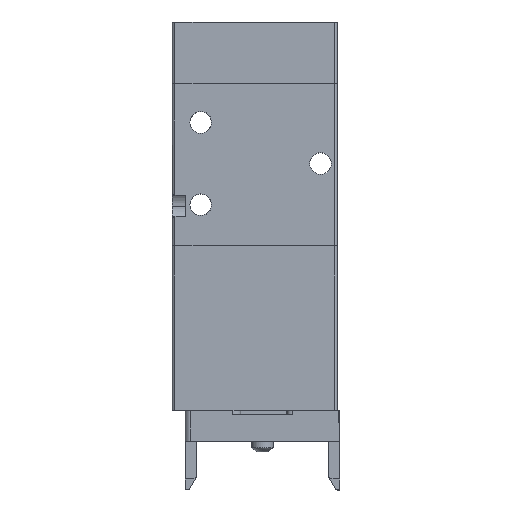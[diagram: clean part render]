
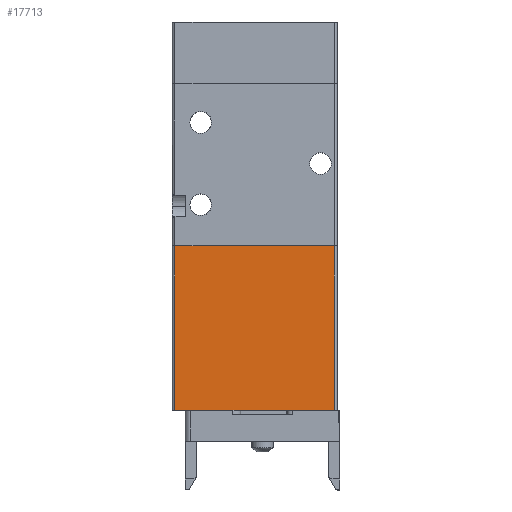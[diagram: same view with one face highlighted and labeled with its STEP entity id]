
A CAD part, top view. The second image highlights one B-rep face of the part: STEP entity #17713.
In plain terms, the highlighted planar face has unit normal (0, 0, 1).
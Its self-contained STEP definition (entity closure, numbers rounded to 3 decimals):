
#966 = DIRECTION ( 'NONE',  ( 0., 1., 0. ) ) ;
#1497 = EDGE_LOOP ( 'NONE', ( #22768, #18174, #15056, #24151 ) ) ;
#4126 = FACE_OUTER_BOUND ( 'NONE', #1497, .T. ) ;
#4406 = VERTEX_POINT ( 'NONE', #6451 ) ;
#4917 = EDGE_CURVE ( 'NONE', #11244, #4406, #31120, .T. ) ;
#5224 = VERTEX_POINT ( 'NONE', #22432 ) ;
#6254 = VERTEX_POINT ( 'NONE', #19863 ) ;
#6451 = CARTESIAN_POINT ( 'NONE',  ( -14.5, -6.64, 11. ) ) ;
#6458 = CARTESIAN_POINT ( 'NONE',  ( -14.5, -38.64, 11. ) ) ;
#8595 = DIRECTION ( 'NONE',  ( -1., 0., 0. ) ) ;
#8697 = CARTESIAN_POINT ( 'NONE',  ( -15., -6.64, 11. ) ) ;
#10854 = DIRECTION ( 'NONE',  ( 0., 1., 0. ) ) ;
#11244 = VERTEX_POINT ( 'NONE', #17050 ) ;
#12212 = LINE ( 'NONE', #25816, #24715 ) ;
#12359 = LINE ( 'NONE', #6458, #24858 ) ;
#15056 = ORIENTED_EDGE ( 'NONE', *, *, #25418, .F. ) ;
#15812 = PLANE ( 'NONE',  #24125 ) ;
#15919 = CARTESIAN_POINT ( 'NONE',  ( -15., -38.64, 11. ) ) ;
#15922 = DIRECTION ( 'NONE',  ( 0., 0., -1. ) ) ;
#17050 = CARTESIAN_POINT ( 'NONE',  ( 16.5, -6.64, 11. ) ) ;
#17291 = EDGE_CURVE ( 'NONE', #4406, #6254, #12359, .T. ) ;
#17713 = ADVANCED_FACE ( 'NONE', ( #4126 ), #15812, .F. ) ;
#18174 = ORIENTED_EDGE ( 'NONE', *, *, #17291, .T. ) ;
#18587 = VECTOR ( 'NONE', #8595, 1000. ) ;
#19863 = CARTESIAN_POINT ( 'NONE',  ( -14.5, -38.64, 11. ) ) ;
#22432 = CARTESIAN_POINT ( 'NONE',  ( 16.5, -38.64, 11. ) ) ;
#22768 = ORIENTED_EDGE ( 'NONE', *, *, #4917, .T. ) ;
#23186 = LINE ( 'NONE', #15919, #29826 ) ;
#24125 = AXIS2_PLACEMENT_3D ( 'NONE', #30894, #15922, #966 ) ;
#24151 = ORIENTED_EDGE ( 'NONE', *, *, #25771, .T. ) ;
#24715 = VECTOR ( 'NONE', #10854, 1000. ) ;
#24858 = VECTOR ( 'NONE', #26419, 1000. ) ;
#25418 = EDGE_CURVE ( 'NONE', #5224, #6254, #23186, .T. ) ;
#25771 = EDGE_CURVE ( 'NONE', #5224, #11244, #12212, .T. ) ;
#25816 = CARTESIAN_POINT ( 'NONE',  ( 16.5, -38.64, 11. ) ) ;
#26419 = DIRECTION ( 'NONE',  ( 0., -1., 0. ) ) ;
#29826 = VECTOR ( 'NONE', #30890, 1000. ) ;
#30890 = DIRECTION ( 'NONE',  ( -1., 0., 0. ) ) ;
#30894 = CARTESIAN_POINT ( 'NONE',  ( -15., -38.64, 11. ) ) ;
#31120 = LINE ( 'NONE', #8697, #18587 ) ;
